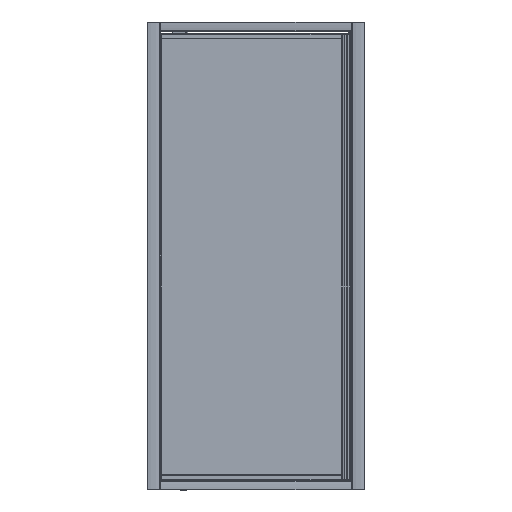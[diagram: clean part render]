
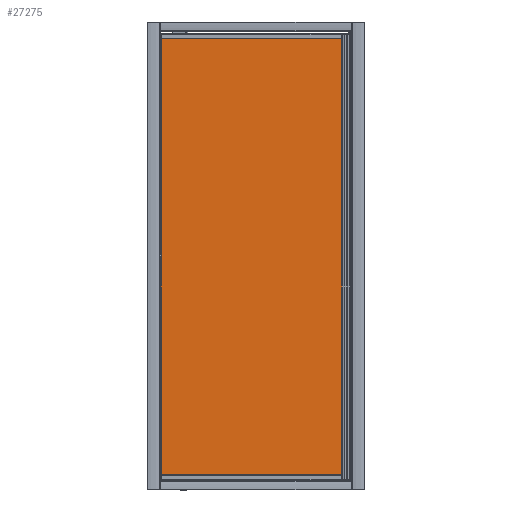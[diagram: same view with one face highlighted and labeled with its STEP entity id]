
A CAD part, left-side view. The second image highlights one B-rep face of the part: STEP entity #27275.
In plain terms, the highlighted planar face has unit normal (-1, 0, 0) as drawn and (0, 0, 1) by its records, which use the part's own axes.
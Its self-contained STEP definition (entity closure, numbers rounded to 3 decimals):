
#1022=PLANE('',#29590);
#2800=LINE('',#44665,#5250);
#2804=LINE('',#44673,#5254);
#2807=LINE('',#44679,#5257);
#2810=LINE('',#44684,#5260);
#5250=VECTOR('',#35665,1740.);
#5254=VECTOR('',#35671,733.);
#5257=VECTOR('',#35676,1740.);
#5260=VECTOR('',#35681,733.);
#7519=FACE_OUTER_BOUND('',#9044,.T.);
#9044=EDGE_LOOP('',(#22582,#22583,#22584,#22585));
#12629=VERTEX_POINT('',#44663);
#12630=VERTEX_POINT('',#44664);
#12633=VERTEX_POINT('',#44672);
#12635=VERTEX_POINT('',#44678);
#16133=EDGE_CURVE('',#12629,#12630,#2800,.T.);
#16137=EDGE_CURVE('',#12630,#12633,#2804,.T.);
#16140=EDGE_CURVE('',#12633,#12635,#2807,.T.);
#16143=EDGE_CURVE('',#12635,#12629,#2810,.T.);
#22582=ORIENTED_EDGE('',*,*,#16133,.F.);
#22583=ORIENTED_EDGE('',*,*,#16143,.F.);
#22584=ORIENTED_EDGE('',*,*,#16140,.F.);
#22585=ORIENTED_EDGE('',*,*,#16137,.F.);
#27275=ADVANCED_FACE('',(#7519),#1022,.T.);
#29590=AXIS2_PLACEMENT_3D('',#44686,#35683,#35684);
#35665=DIRECTION('',(0.,-1.,0.));
#35671=DIRECTION('',(-1.,0.,0.));
#35676=DIRECTION('',(0.,1.,0.));
#35681=DIRECTION('',(1.,0.,0.));
#35683=DIRECTION('center_axis',(0.,0.,1.));
#35684=DIRECTION('ref_axis',(1.,0.,0.));
#44663=CARTESIAN_POINT('',(-152.306,318.107,3.));
#44664=CARTESIAN_POINT('',(-152.306,-1421.893,3.));
#44665=CARTESIAN_POINT('',(-152.306,318.107,3.));
#44672=CARTESIAN_POINT('',(-885.306,-1421.893,3.));
#44673=CARTESIAN_POINT('',(-152.306,-1421.893,3.));
#44678=CARTESIAN_POINT('',(-885.306,318.107,3.));
#44679=CARTESIAN_POINT('',(-885.306,-1421.893,3.));
#44684=CARTESIAN_POINT('',(-885.306,318.107,3.));
#44686=CARTESIAN_POINT('Origin',(-518.806,-551.893,3.));
